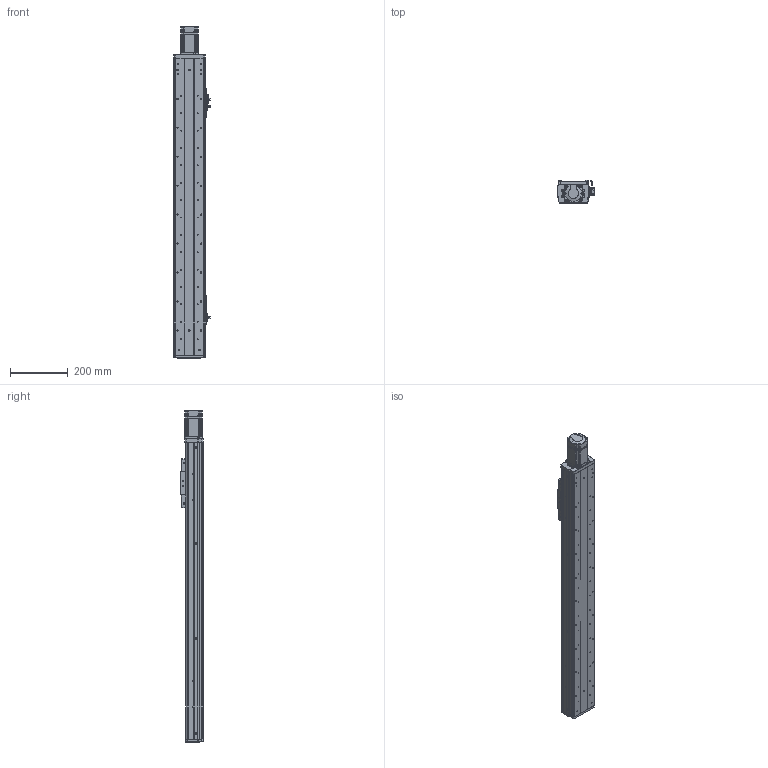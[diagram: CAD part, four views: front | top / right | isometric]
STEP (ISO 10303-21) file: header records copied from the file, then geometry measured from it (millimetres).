
FILE_DESCRIPTION (( 'STEP AP203' ), '1' );
FILE_NAME ('RY100FS-300-MK(15双轨).SLDASM_750.step', '2021-03-02T05:51:02', ( '盈信电脑' ), ( '东莞市道滘镇水果街19号' ), 'SwSTEP 2.0', 'SolidWorks 2012', '' );
FILE_SCHEMA (( 'CONFIG_CONTROL_DESIGN' ));
Length unit declared in the file: millimetre
Products named in the file (20): RY100FS-300-MK(15邧寢).SLDASM_750; RY100FS-双轨螺母座(16丝杆）; 滅袉蝶14-24; 滅袉蝶14-35; RY100FS-15絳寢萇儂假蚾啣(200W PCD70 M4); 覜茼ん672; RY100F-詩湍揤踡輸; 672嫖萇羲壽假蚾釱; RY80俋离覜茼え; RY100F-詩湍揤踡謫; 1; 侂狟200W萇儂; RY100F-綴裔啣; RY100F-滅鳥裔啣; RY100F-詩湍幗謫粣; 棠沺沭; RY100FS-300-MK15邧寢祥凄詩湍_750; RY100FS-双轨铝滑块(上板）; RY100FS-300-MK15絳寢倰第菁釱_750; RY100FS-300-MK15絳寢倰第奻裔啣_750
Assembly tree (27 placements, depth 3):
  RY100FS-300-MK(15邧寢).SLDASM_750
    RY100FS-300-MK15絳寢倰第菁釱_750
    RY100FS-300-MK15絳寢倰第奻裔啣_750  x2
    RY100FS-300-MK15邧寢祥凄詩湍_750
    RY100FS-双轨铝滑块(上板）
    RY100F-滅鳥裔啣
    棠沺沭  x2
    RY100F-詩湍幗謫粣
    RY100F-詩湍揤踡謫  x2
    侂狟200W萇儂
      1
    RY100F-綴裔啣
    672嫖萇羲壽假蚾釱  x2
    RY80俋离覜茼え  x2
    覜茼ん672  x3
    RY100F-詩湍揤踡輸  x2
    RY100FS-15絳寢萇儂假蚾啣(200W PCD70 M4)
    RY100FS-双轨螺母座(16丝杆）
    滅袉蝶14-24
    滅袉蝶14-35
Bounding box: 126.2 x 78.5 x 1146 mm (x, y, z)
Volume: 2438308.3 mm3; surface area: 997973.8 mm2
Topology: 26 solids, 26 shells, 2048 faces, 5601 edges, 3643 vertices
Faces by surface type: plane 973, cylinder 914, cone 136, bspline 25
Entity records: 58787 total; most frequent: CARTESIAN_POINT 12349, DIRECTION 9210, ORIENTED_EDGE 9182, EDGE_CURVE 4591, AXIS2_PLACEMENT_3D 3238, VERTEX_POINT 3023, VECTOR 2734, LINE 2734
